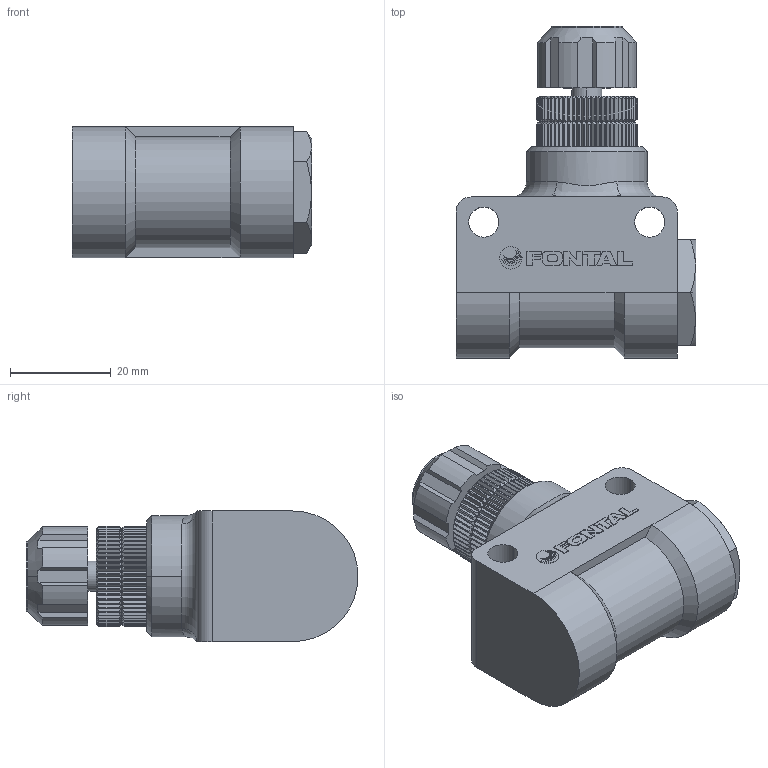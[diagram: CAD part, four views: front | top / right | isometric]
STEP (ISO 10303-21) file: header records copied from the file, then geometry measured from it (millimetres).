
FILE_DESCRIPTION (( 'STEP AP203' ), '1' );
FILE_NAME ('SP-06-1.STEP', '2016-01-14T20:16:41', ( '' ), ( '' ), 'SwSTEP 2.0', 'SolidWorks 2014', '' );
FILE_SCHEMA (( 'CONFIG_CONTROL_DESIGN' ));
Length unit declared in the file: millimetre
Products named in the file (8): SP-06-6; ZH-2H-MARK; SP-06-4; SP-06-1; SP-06-5; SP-06-3; SP-06-2
Assembly tree (7 placements, depth 2):
  SP-06-1
    SP-06-1
    SP-06-3
    SP-06-4
    SP-06-5
    SP-06-6
    SP-06-2
    ZH-2H-MARK
Bounding box: 47.7 x 66 x 26.12 mm (x, y, z)
Volume: 42455.9 mm3; surface area: 12110.6 mm2
Topology: 13 solids, 13 shells, 666 faces, 1661 edges, 1021 vertices
Faces by surface type: plane 357, cylinder 164, cone 132, bspline 10, torus 3
Entity records: 21023 total; most frequent: CARTESIAN_POINT 4846, ORIENTED_EDGE 3322, DIRECTION 3051, EDGE_CURVE 1661, AXIS2_PLACEMENT_3D 1134, VERTEX_POINT 1021, LINE 783, VECTOR 783
